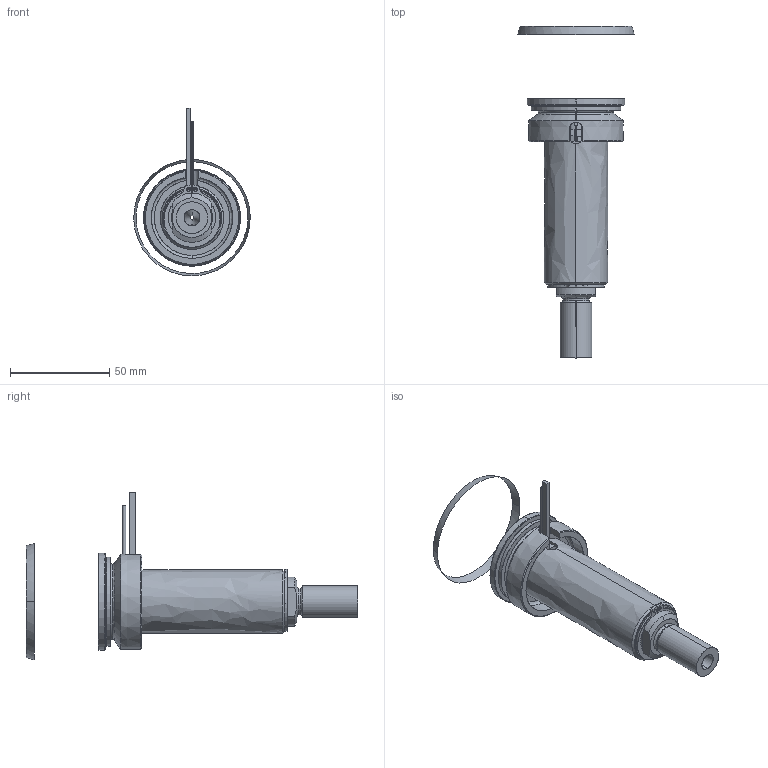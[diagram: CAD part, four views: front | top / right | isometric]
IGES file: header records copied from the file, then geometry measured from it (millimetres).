
Start section: SolidWorks IGES file using analytic representation for surfaces
Global section: file name: C:\Documents and Settings\ws-20\Desktop\TEMPORANEA\UGBE5002-S-A-P-5 [Ød-2.0 P-25 ØC-12].IGS; native system: SolidWorks 2012; preprocessor: SolidWorks 2012; author: ws-20; date: 120306.145320; units: millimetre
Bounding box: 58.79 x 167.44 x 84.69 mm (x, y, z)
Surface area: 43112.1 mm2 (no closed solid volume)
Topology: 0 solids, 0 shells, 112 faces, 2126 edges, 2126 vertices
Faces by surface type: revolution 68, bspline 44
